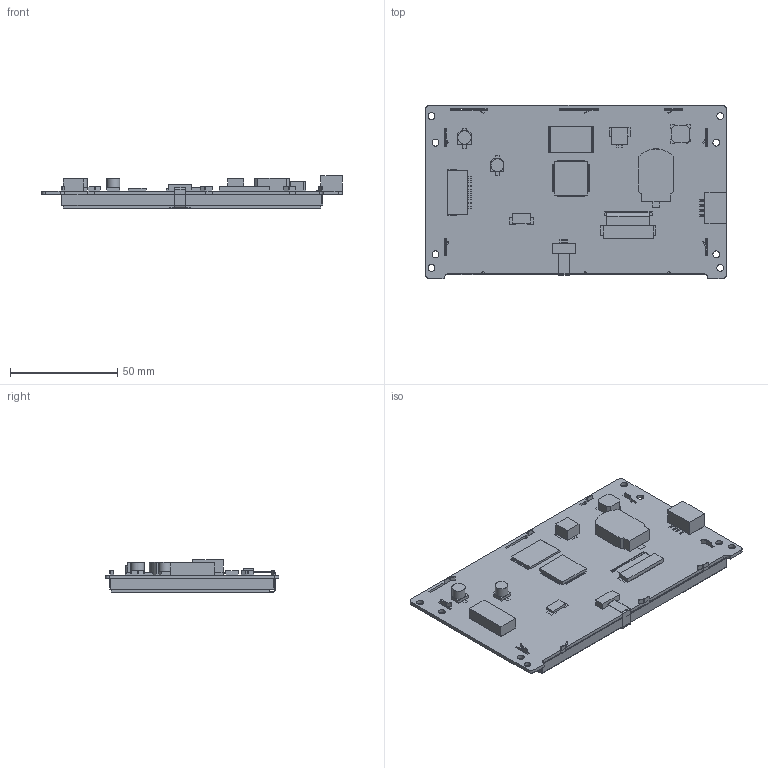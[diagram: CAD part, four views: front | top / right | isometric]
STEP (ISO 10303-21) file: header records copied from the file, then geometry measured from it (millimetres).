
FILE_DESCRIPTION(/* description */ (''),/* implementation_level */ '2;1');
FILE_NAME(/* name */ '3D_SDWa050T67T.stp',/* time_stamp */ '2020-09-07T16:21:59+08:00',/* author */ (''),/* organization */ (''),/* preprocessor_version */ 'ST-DEVELOPER v15',/* originating_system */ 'SIEMENS PLM Software NX 8.5',/* authorisation */ '');
FILE_SCHEMA (('AP203_CONFIGURATION_CONTROLLED_3D_DESIGN_OF_MECHANICAL_PARTS_AND_ASSEMBLIES_MIM_LF { 1 0 10303 403 2 1 2}'));
Length unit declared in the file: millimetre
Products named in the file (1): SDWa050T67
Bounding box: 140 x 80.9 x 14.91 mm (x, y, z)
Volume: 81797.4 mm3; surface area: 95077.2 mm2
Topology: 325 solids, 325 shells, 2087 faces, 4310 edges, 2873 vertices
Faces by surface type: plane 2023, cylinder 57, extrusion 7
Full cylindrical faces by diameter (mm): 3.2 x8, 5.931 x1, 6.258 x1
Entity records: 68919 total; most frequent: CARTESIAN_POINT 9615, ORIENTED_EDGE 8596, DIRECTION 8520, EDGE_CURVE 4298, VECTOR 4134, LINE 4127, VERTEX_POINT 2873, AXIS2_PLACEMENT_3D 2193
